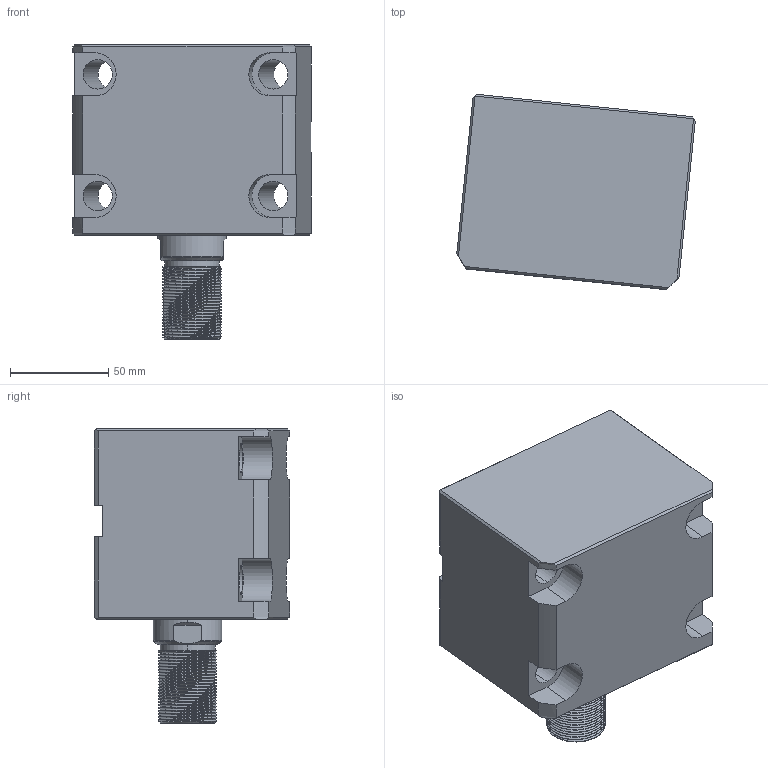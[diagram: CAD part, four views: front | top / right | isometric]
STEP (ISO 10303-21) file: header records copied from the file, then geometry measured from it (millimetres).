
FILE_DESCRIPTION (( 'STEP AP214' ), '1' );
FILE_NAME ('chtb-lam63x30w_asm.STEP', '2018-05-22T03:30:13', ( 'Windows' ), ( 'Microsoft' ), 'SwSTEP 2.0', 'SolidWorks 2015', '' );
FILE_SCHEMA (( 'AUTOMOTIVE_DESIGN' ));
Length unit declared in the file: millimetre
Products named in the file (4): CHTB-LAM63X30NBT; CHTB63X30WHSG; CHTB-63QG; chtb-lam63x30w_asm
Assembly tree (3 placements, depth 2):
  chtb-lam63x30w_asm
    CHTB-63QG
    CHTB63X30WHSG
    CHTB-LAM63X30NBT
Bounding box: 121.6 x 99.52 x 150 mm (x, y, z)
Volume: 867516.2 mm3; surface area: 136632.8 mm2
Topology: 3 solids, 3 shells, 229 faces, 681 edges, 463 vertices
Faces by surface type: cylinder 145, plane 54, bspline 15, cone 9, torus 6
Entity records: 23331 total; most frequent: CARTESIAN_POINT 17747, ORIENTED_EDGE 1354, DIRECTION 909, EDGE_CURVE 677, VERTEX_POINT 463, AXIS2_PLACEMENT_3D 330, EDGE_LOOP 252, VECTOR 249
